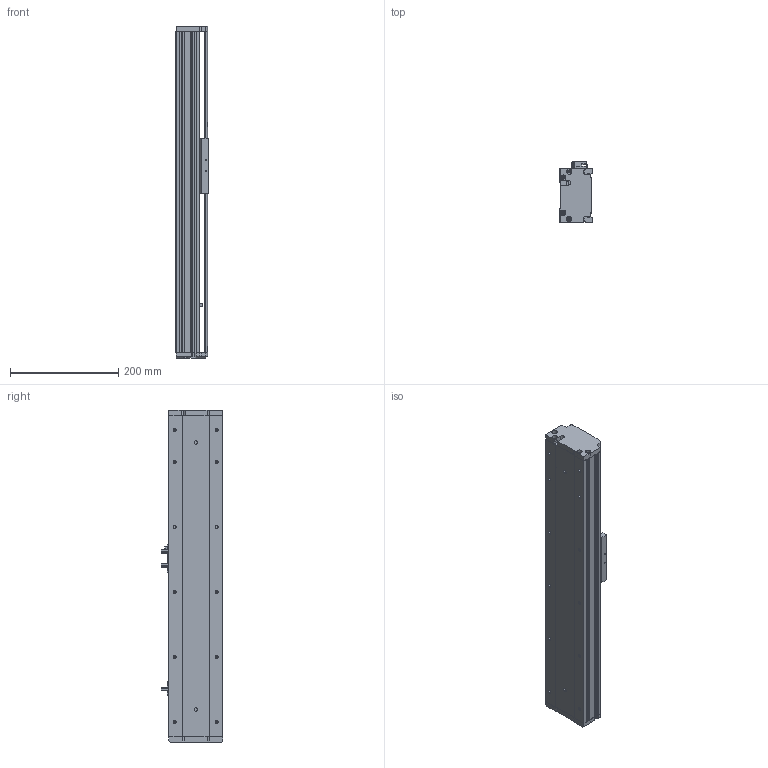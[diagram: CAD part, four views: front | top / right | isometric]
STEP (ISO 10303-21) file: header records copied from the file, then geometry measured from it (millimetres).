
FILE_DESCRIPTION (( 'STEP AP214' ), '1' );
FILE_NAME ('KSD100S-S250-M-CM.STEP', '2019-08-30T02:32:49', ( '微软用户' ), ( '微软中国' ), 'SwSTEP 2.0', 'SolidWorks 2014', '' );
FILE_SCHEMA (( 'AUTOMOTIVE_DESIGN' ));
Length unit declared in the file: millimetre
Products named in the file (8): 覜茼え100遵圉猾敕; U倰嫖萇EEㄜSX672; 100宽防尘板丝杆250行程电机内装; 100宽马达安装板-电机内装; 100宽滚珠螺姆安装板半封闭; 100遵傷啣; 100宽底板半封闭丝杆250行程电机内装; KSD100S-S250-M-CM
Assembly tree (9 placements, depth 2):
  KSD100S-S250-M-CM
    100宽底板半封闭丝杆250行程电机内装
    100遵傷啣
    100宽滚珠螺姆安装板半封闭
    100宽马达安装板-电机内装
    100宽防尘板丝杆250行程电机内装
    U倰嫖萇EEㄜSX672  x3
    覜茼え100遵圉猾敕
Bounding box: 60 x 113.7 x 613 mm (x, y, z)
Volume: 1258390.3 mm3; surface area: 455496.5 mm2
Topology: 9 solids, 9 shells, 979 faces, 2778 edges, 1763 vertices
Faces by surface type: cylinder 442, plane 436, cone 101
Entity records: 33188 total; most frequent: CARTESIAN_POINT 6500, DIRECTION 4339, ORIENTED_EDGE 4256, EDGE_CURVE 2128, AXIS2_PLACEMENT_3D 1542, VERTEX_POINT 1387, LINE 1255, VECTOR 1255
